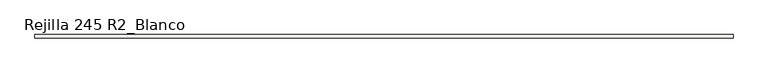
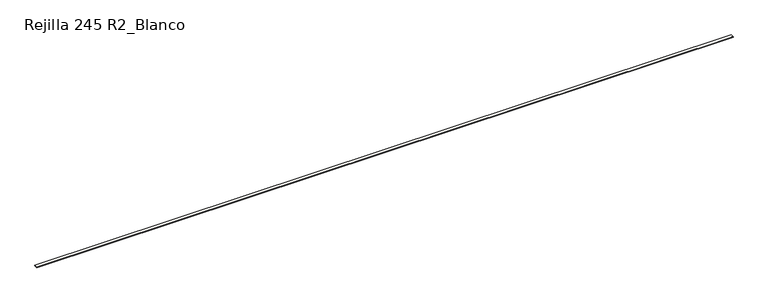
"""IFC4 building model written with IfcOpenShell, lengths in millimetres: slab geometry, ROSA GRES_245 R2_Blanco : Rejilla 245 R2_Blanco."""

from ifc_helpers import new_model, si_unit, frame, origin, place, context, project, spatial, polyline, outline, extrude, source, transform, mapped, element, save


def rejilla_245_r2_blanco_af56e1d9(model_context):
    return source(origin(), model_context, "Body", "SweptSolid", [
        extrude(outline(polyline([(369.5908797, 206.3460936), (369.5908797, 228.3460936), (614.5908797, 228.3460936), (614.5908797, 206.3460936), (572.3142119, 206.3460936), (561.3142119, 195.3460936), (422.8675475, 195.3460936), (411.8675475, 206.3460936), (369.5908797, 206.3460936)])), frame((0.0, 0.0, 0.0), z_axis=(1.0, 0.0, 0.0), x_axis=(0.0, 1.0, 0.0)), (0.0, 0.0, 1.0), 50639.1817594),
    ])


if __name__ == "__main__":
    model = new_model("IFC4")
    model_context = context("Model", 3, world=origin())
    ifc_project = project(units=[si_unit("LENGTHUNIT", "METRE", prefix="MILLI")], contexts=[model_context])
    site = spatial("IfcSite", under=ifc_project)
    building = spatial("IfcBuilding", under=site)
    placement = place(None, origin())
    rejilla_245_r2_blanco_shape = rejilla_245_r2_blanco_af56e1d9(model_context)
    element("IfcSlab", 1, ObjectType="ROSA GRES_245 R2_Blanco : Rejilla 245 R2_Blanco", at=placement, inside=building, context=model_context, shape_type="MappedRepresentation", body=[
        mapped(rejilla_245_r2_blanco_shape, transform((0.0, 0.0, 0.0), x_axis=(1.0, 0.0, 0.0), y_axis=(0.0, 1.0, 0.0), z_axis=(0.0, 0.0, 1.0))),
    ])
    save(model, "model.ifc")
